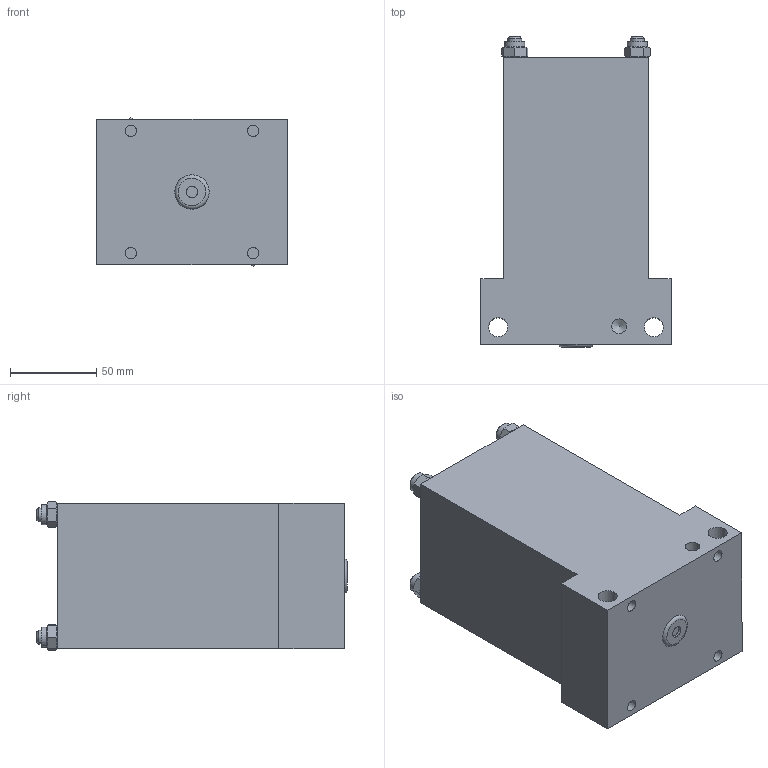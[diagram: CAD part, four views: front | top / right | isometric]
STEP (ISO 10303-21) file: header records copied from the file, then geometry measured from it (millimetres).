
FILE_DESCRIPTION((''),'2;1');
FILE_NAME('C:\VaultWork\Zeichnungen\Maßblätter\Multizylinder\M 75\M75-30\M01791-4-0 Maßblatt Multizylinder M75-5-12.stp','2013-06-17T12:01:10',('Sergeew'),(''),'Autodesk Inventor 2012','Autodesk Inventor 2012','');
FILE_SCHEMA(('AUTOMOTIVE_DESIGN { 1 0 10303 214 1 1 1 1 }'));
Length unit declared in the file: millimetre
Products named in the file (1): M01791-4-0 Maßblatt Multizylinder M75-5-12
Bounding box: 110 x 179.5 x 85.72 mm (x, y, z)
Volume: 1236568.2 mm3; surface area: 89139.9 mm2
Topology: 1 solids, 5 shells, 108 faces, 235 edges, 156 vertices
Faces by surface type: plane 61, cylinder 25, cone 21, torus 1
Full cylindrical faces by diameter (mm): 6.647 x5, 8 x8, 8.566 x2, 9 x4, 11 x2, 11.6 x4
Entity records: 2578 total; most frequent: CARTESIAN_POINT 501, DIRECTION 402, ORIENTED_EDGE 328, EDGE_LOOP 178, AXIS2_PLACEMENT_3D 177, EDGE_CURVE 164, VERTEX_POINT 132, FACE_OUTER_BOUND 108
